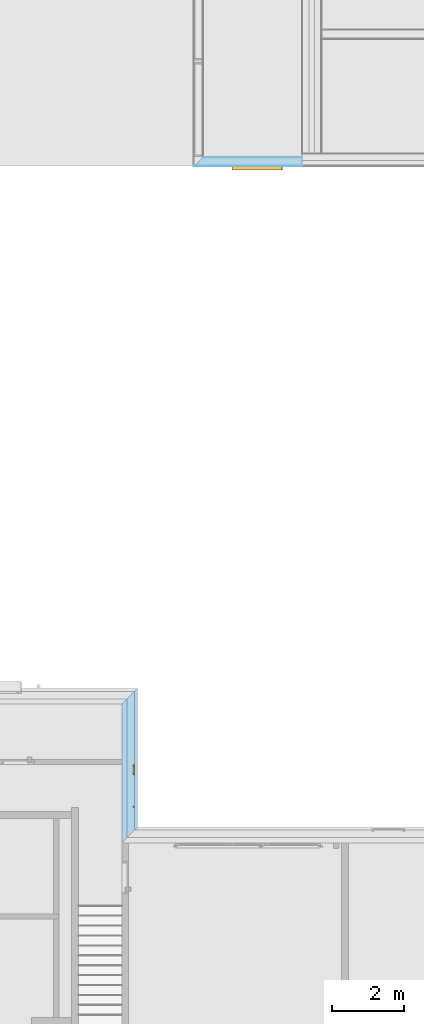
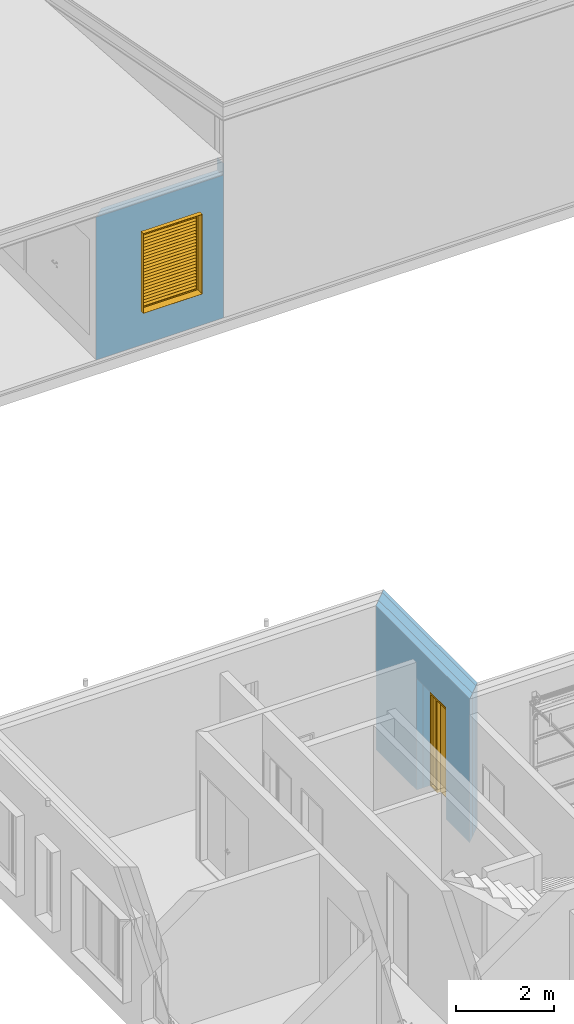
# One storey, part 35 of 62: 1 door, 1 window, 2 openings, 2 elements without a shape of their own, plus 6 elements that do not belong to this part.
"""IFC2X3 building model written with IfcOpenShell, lengths in millimetres."""

from ifc_helpers import new_model, entity, si_unit, converted_unit, derived_unit, money_unit, direction, frame, origin_with_axes, origin_2d_with_axis, place, context, subcontext, project, spatial, polyline, rectangle, outline, extrude, clip, bounded_halfspace, open_shell, faceted_brep, surface_model, material, type_object, element, fill, aggregate, save


model = new_model("IFC2X3")

# Units and contexts
model_context = context("Model", 3, precision=0.01, world=origin_with_axes(), true_north=direction((0.0, 1.0)))
body_context = subcontext(model_context, "Body", "Model", "MODEL_VIEW")
ifc_project = project(units=[si_unit("LENGTHUNIT", "METRE", prefix="MILLI"), si_unit("AREAUNIT", "SQUARE_METRE"), si_unit("VOLUMEUNIT", "CUBIC_METRE"), converted_unit("PLANEANGLEUNIT", "DEGREE", entity("IfcPlaneAngleMeasure", 0.0174532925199), si_unit("PLANEANGLEUNIT", "RADIAN"), dimensions=[0, 0, 0, 0, 0, 0, 0]), si_unit("SOLIDANGLEUNIT", "STERADIAN"), money_unit("EUR"), converted_unit("TIMEUNIT", "Year", entity("IfcTimeMeasure", 31556926.0), si_unit("TIMEUNIT", "SECOND"), dimensions=[0, 0, 1, 0, 0, 0, 0]), si_unit("MASSUNIT", "GRAM", prefix="KILO"), si_unit("THERMODYNAMICTEMPERATUREUNIT", "DEGREE_CELSIUS"), si_unit("LUMINOUSINTENSITYUNIT", "LUMEN"), si_unit("ENERGYUNIT", "JOULE", prefix="MEGA"), derived_unit("THERMALCONDUCTANCEUNIT", [(si_unit("POWERUNIT", "WATT"), 1), (si_unit("LENGTHUNIT", "METRE"), -1), (si_unit("THERMODYNAMICTEMPERATUREUNIT", "KELVIN"), -1)]), derived_unit("SPECIFICHEATCAPACITYUNIT", [(si_unit("ENERGYUNIT", "JOULE"), 1), (si_unit("MASSUNIT", "GRAM", prefix="KILO"), -1), (si_unit("THERMODYNAMICTEMPERATUREUNIT", "KELVIN"), -1)]), derived_unit("MASSDENSITYUNIT", [(si_unit("MASSUNIT", "GRAM", prefix="KILO"), 1), (si_unit("VOLUMEUNIT", "CUBIC_METRE"), -1)])], contexts=[model_context])

# Site, building, storey
site_placement = place(None, origin_with_axes())
site = spatial("IfcSite", under=ifc_project, at=site_placement, Name="KIRDE 14, ELVA", CompositionType="ELEMENT")
building_placement = place(site_placement, origin_with_axes())
building = spatial("IfcBuilding", under=site, at=building_placement, Name="PPA ja Päästeameti ühishoone", CompositionType="ELEMENT")
storey_placement = place(building_placement, origin_with_axes())
storey = spatial("IfcBuildingStorey", under=building, at=storey_placement, Name="Esimene korrus", CompositionType="ELEMENT", Elevation=0.0)

# Door
door_style = type_object("IfcDoorStyle", Name="Door with Sidelight on Side 2 and Transom 24", ConstructionType="NOTDEFINED", OperationType="SINGLE_SWING_RIGHT", ParameterTakesPrecedence=False, Sizeable=False)
wall_1_placement = place(storey_placement, frame((8900.00012238, 24599.816736, 0.0), z_axis=(0.0, 0.0, 1.0), x_axis=(2.4188782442e-10, -1.0, 0.0)))
opening_1_placement = place(wall_1_placement, frame((2271.02281914, 0.0, 0.0), z_axis=(0.0, 0.0, 1.0), x_axis=(1.0, 0.0, 0.0)))
door_placement = place(opening_1_placement, frame((-600.0, 0.0, 0.0), z_axis=(0.0, 0.0, 1.0), x_axis=(1.0, 0.0, 0.0)))
door = element("IfcDoor", 1, at=door_placement, inside=storey, type_object=door_style, Name="VU-02", ObjectType="DOOR", OverallHeight=2800.0, OverallWidth=1200.0, context=body_context, shape_type="SurfaceModel", body=[
    faceted_brep([(1.04012798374e-07, 429.999999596, 0.0), (40.000000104, 429.999999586, 0.0), (40.0000000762, 314.999999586, 0.0), (7.61950502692e-08, 314.999999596, 0.0), (1.04012798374e-07, 429.999999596, 2760.0), (40.000000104, 429.999999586, 2760.0), (40.000000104, 429.999999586, 2340.0), (40.000000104, 429.999999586, 2300.0), (40.000000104, 429.999999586, 40.0), (40.0000000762, 314.999999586, 40.0), (40.0000000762, 314.999999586, 2300.0), (40.0000000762, 314.999999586, 2340.0), (40.0000000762, 314.999999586, 2760.0), (7.61950502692e-08, 314.999999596, 2760.0)], [[[0, 1, 2, 3]], [[0, 4, 5, 6, 7, 8, 1]], [[1, 8, 9, 2]], [[3, 2, 9, 10, 11, 12, 13]], [[4, 0, 3, 13]], [[5, 4, 13, 12]], [[6, 5, 12, 11]], [[7, 6, 11, 10]], [[8, 7, 10, 9]]]),
    faceted_brep([(300.000000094, 389.999999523, 0.0), (300.000000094, 389.999999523, 2300.0), (300.000000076, 314.999999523, 2300.0), (300.000000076, 314.999999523, 0.0), (288.000000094, 389.999999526, 2300.0), (288.000000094, 389.999999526, 0.0), (288.000000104, 429.999999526, 2300.0), (260.000000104, 429.999999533, 2300.0), (260.000000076, 314.999999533, 2300.0), (260.000000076, 314.999999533, 0.0), (260.000000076, 314.999999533, 40.0), (260.000000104, 429.999999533, 0.0), (288.000000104, 429.999999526, 0.0), (260.000000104, 429.999999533, 40.0)], [[[0, 1, 2, 3]], [[4, 1, 0, 5]], [[4, 6, 7, 8, 2, 1]], [[9, 3, 2, 8, 10]], [[5, 0, 3, 9, 11, 12]], [[6, 4, 5, 12]], [[6, 12, 11, 13, 7]], [[13, 10, 8, 7]], [[11, 9, 10, 13]]]),
    faceted_brep([(40.000000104, 429.999999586, 40.0), (40.000000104, 429.999999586, 0.0), (40.0000000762, 314.999999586, 0.0), (40.0000000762, 314.999999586, 40.0), (260.000000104, 429.999999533, 40.0), (260.000000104, 429.999999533, 0.0), (260.000000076, 314.999999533, 0.0), (260.000000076, 314.999999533, 40.0)], [[[0, 1, 2, 3]], [[0, 4, 5, 1]], [[1, 5, 6, 2]], [[3, 2, 6, 7]], [[4, 0, 3, 7]], [[5, 4, 7, 6]]]),
    faceted_brep([(1172.0000001, 429.999999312, 2312.0), (1160.0000001, 429.999999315, 2312.0), (1160.0000001, 429.999999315, 2340.0), (1160.0000001, 429.999999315, 2760.0), (1200.0000001, 429.999999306, 2760.0), (1200.0000001, 429.999999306, 0.0), (1172.0000001, 429.999999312, 0.0), (1172.00000009, 389.999999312, 2312.0), (1160.00000009, 389.999999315, 2312.0), (1160.00000009, 389.999999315, 0.0), (1160.00000008, 314.999999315, 0.0), (1160.00000008, 314.999999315, 2300.0), (1160.00000008, 314.999999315, 2340.0), (1160.00000008, 314.999999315, 2760.0), (1200.00000008, 314.999999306, 2760.0), (1200.00000008, 314.999999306, 0.0), (1172.00000009, 389.999999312, 0.0)], [[[0, 1, 2, 3, 4, 5, 6]], [[1, 0, 7, 8]], [[8, 9, 10, 11, 12, 2, 1]], [[2, 12, 13, 3]], [[3, 13, 14, 4]], [[4, 14, 15, 5]], [[16, 6, 5, 15, 10, 9]], [[0, 6, 16, 7]], [[16, 9, 8, 7]], [[12, 11, 10, 15, 14, 13]]]),
    faceted_brep([(1.04012798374e-07, 429.999999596, 2800.0), (1.04012798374e-07, 429.999999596, 2760.0), (7.61950502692e-08, 314.999999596, 2760.0), (7.61950502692e-08, 314.999999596, 2800.0), (1200.0000001, 429.999999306, 2800.0), (1200.0000001, 429.999999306, 2760.0), (1160.0000001, 429.999999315, 2760.0), (40.000000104, 429.999999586, 2760.0), (40.0000000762, 314.999999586, 2760.0), (1160.00000008, 314.999999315, 2760.0), (1200.00000008, 314.999999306, 2760.0), (1200.00000008, 314.999999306, 2800.0)], [[[0, 1, 2, 3]], [[0, 4, 5, 6, 7, 1]], [[1, 7, 8, 2]], [[3, 2, 8, 9, 10, 11]], [[4, 0, 3, 11]], [[5, 4, 11, 10]], [[6, 5, 10, 9]], [[7, 6, 9, 8]]]),
    faceted_brep([(1160.00000009, 389.999999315, 2312.0), (1160.0000001, 429.999999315, 2312.0), (1160.0000001, 429.999999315, 2340.0), (1160.00000008, 314.999999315, 2340.0), (1160.00000008, 314.999999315, 2300.0), (1160.00000009, 389.999999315, 2300.0), (288.000000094, 389.999999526, 2312.0), (288.000000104, 429.999999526, 2312.0), (288.000000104, 429.999999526, 2300.0), (260.000000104, 429.999999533, 2300.0), (40.000000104, 429.999999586, 2300.0), (40.000000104, 429.999999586, 2340.0), (40.0000000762, 314.999999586, 2340.0), (300.000000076, 314.999999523, 2300.0), (40.0000000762, 314.999999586, 2300.0), (260.000000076, 314.999999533, 2300.0), (300.000000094, 389.999999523, 2300.0), (288.000000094, 389.999999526, 2300.0)], [[[0, 1, 2, 3, 4, 5]], [[1, 0, 6, 7]], [[7, 8, 9, 10, 11, 2, 1]], [[11, 12, 3, 2]], [[13, 4, 3, 12, 14, 15]], [[16, 5, 4, 13]], [[0, 5, 16, 17, 6]], [[8, 7, 6, 17]], [[17, 16, 13, 15, 9, 8]], [[9, 15, 14, 10]], [[10, 14, 12, 11]]]),
    faceted_brep([(1172.0000001, 429.999999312, 0.0), (1172.00000009, 389.999999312, 0.0), (288.000000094, 389.999999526, 0.0), (288.000000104, 429.999999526, 0.0), (1172.0000001, 429.999999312, 2312.0), (1172.00000009, 389.999999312, 2312.0), (288.000000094, 389.999999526, 2312.0), (288.000000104, 429.999999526, 2312.0)], [[[0, 1, 2, 3]], [[4, 5, 1, 0]], [[1, 5, 6, 2]], [[3, 2, 6, 7]], [[0, 3, 7, 4]], [[7, 6, 5, 4]]]),
    surface_model("IfcShellBasedSurfaceModel", [(40.0000000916, 378.499999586, 2340.0), (40.0000000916, 378.499999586, 2760.0), (1160.00000009, 378.499999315, 2760.0), (1160.00000009, 378.499999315, 2340.0)], [open_shell([[[0, 1, 2, 3]]])]),
    surface_model("IfcShellBasedSurfaceModel", [(40.0000000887, 366.499999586, 2340.0), (1160.00000009, 366.499999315, 2340.0), (1160.00000009, 366.499999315, 2760.0), (40.0000000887, 366.499999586, 2760.0)], [open_shell([[[0, 1, 2, 3]]])]),
    surface_model("IfcShellBasedSurfaceModel", [(40.0000000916, 378.499999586, 40.0), (40.0000000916, 378.499999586, 2300.0), (260.000000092, 378.499999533, 2300.0), (260.000000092, 378.499999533, 40.0)], [open_shell([[[0, 1, 2, 3]]])]),
    surface_model("IfcShellBasedSurfaceModel", [(40.0000000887, 366.499999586, 40.0), (260.000000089, 366.499999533, 40.0), (260.000000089, 366.499999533, 2300.0), (40.0000000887, 366.499999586, 2300.0)], [open_shell([[[0, 1, 2, 3]]])]),
])

# Window
window_style = type_object("IfcWindowStyle", Name="Window 24", ConstructionType="NOTDEFINED", OperationType="SINGLE_PANEL", ParameterTakesPrecedence=False, Sizeable=False)
wall_2_placement = place(storey_placement, frame((11159.4856153, 39784.5478473, 0.0), z_axis=(0.0, 0.0, 1.0), x_axis=(1.0, 0.0, 0.0)))
opening_2_placement = place(wall_2_placement, frame((1497.8524724, 0.0, 850.0), z_axis=(0.0, 0.0, 1.0), x_axis=(1.0, 0.0, 0.0)))
window_placement = place(opening_2_placement, frame((700.0, 0.0, 0.0), z_axis=(0.0, 0.0, 1.0), x_axis=(-1.0, 0.0, 0.0)))
window = element("IfcWindow", 2, at=window_placement, inside=storey, type_object=window_style, Name="VR-01", ObjectType="WINDOW", OverallHeight=2000.0, OverallWidth=1400.0, context=body_context, shape_type="Brep", body=[
    faceted_brep([(0.0, 170.0, 0.0), (0.0, 250.0, 0.0), (1400.0, 250.0, 0.0), (1400.0, 170.0, 0.0), (0.0, 170.0, 2000.0), (0.0, 250.0, 2000.0), (1400.0, 250.0, 2000.0), (5.0, 250.0, 5.0), (1395.0, 250.0, 5.0), (1395.0, 250.0, 1995.0), (5.0, 250.0, 1995.0), (1400.0, 170.0, 2000.0), (5.0, 170.0, 5.0), (5.0, 170.0, 1995.0), (1395.0, 170.0, 1995.0), (1395.0, 170.0, 5.0)], [[[0, 1, 2, 3]], [[4, 5, 1, 0]], [[1, 5, 6, 2], [7, 8, 9, 10]], [[3, 2, 6, 11]], [[0, 3, 11, 4], [12, 13, 14, 15]], [[11, 6, 5, 4]], [[15, 8, 7, 12]], [[14, 9, 8, 15]], [[13, 10, 9, 14]], [[12, 7, 10, 13]]]),
    faceted_brep([(0.0, 350.0, 0.0), (5.0, 350.0, 5.0), (5.0, 250.0, 5.0), (0.0, 250.0, 0.0), (0.0, 350.0, 2000.0), (5.0, 350.0, 1995.0), (5.0, 250.0, 1995.0), (0.0, 250.0, 2000.0)], [[[0, 1, 2, 3]], [[0, 4, 5, 1]], [[1, 5, 6, 2]], [[3, 2, 6, 7]], [[4, 0, 3, 7]], [[5, 4, 7, 6]]]),
    faceted_brep([(1400.0, 350.0, 2000.0), (1395.0, 350.0, 1995.0), (1395.0, 250.0, 1995.0), (1400.0, 250.0, 2000.0), (1400.0, 350.0, 0.0), (1395.0, 350.0, 5.0), (1395.0, 250.0, 5.0), (1400.0, 250.0, 0.0)], [[[0, 1, 2, 3]], [[0, 4, 5, 1]], [[1, 5, 6, 2]], [[3, 2, 6, 7]], [[4, 0, 3, 7]], [[5, 4, 7, 6]]]),
    faceted_brep([(1400.0, 350.0, 0.0), (1395.0, 350.0, 5.0), (1395.0, 250.0, 5.0), (1400.0, 250.0, 0.0), (0.0, 350.0, 0.0), (5.0, 350.0, 5.0), (5.0, 250.0, 5.0), (0.0, 250.0, 0.0)], [[[0, 1, 2, 3]], [[0, 4, 5, 1]], [[1, 5, 6, 2]], [[3, 2, 6, 7]], [[4, 0, 3, 7]], [[5, 4, 7, 6]]]),
    faceted_brep([(0.0, 350.0, 2000.0), (5.0, 350.0, 1995.0), (5.0, 250.0, 1995.0), (0.0, 250.0, 2000.0), (1400.0, 350.0, 2000.0), (1395.0, 350.0, 1995.0), (1395.0, 250.0, 1995.0), (1400.0, 250.0, 2000.0)], [[[0, 1, 2, 3]], [[0, 4, 5, 1]], [[1, 5, 6, 2]], [[3, 2, 6, 7]], [[4, 0, 3, 7]], [[5, 4, 7, 6]]]),
    faceted_brep([(35.0, 120.0, 1965.0), (35.0, 170.0, 1965.0), (0.0, 170.0, 2000.0), (0.0, 120.0, 2000.0), (35.0, 120.0, 35.0), (35.0, 170.0, 35.0), (0.0, 170.0, 0.0), (0.0, 120.0, 0.0)], [[[0, 1, 2, 3]], [[4, 5, 1, 0]], [[1, 5, 6, 2]], [[3, 2, 6, 7]], [[0, 3, 7, 4]], [[7, 6, 5, 4]]]),
    faceted_brep([(1365.0, 120.0, 35.0), (1365.0, 170.0, 35.0), (1400.0, 170.0, 0.0), (1400.0, 120.0, 0.0), (1365.0, 120.0, 1965.0), (1365.0, 170.0, 1965.0), (1400.0, 170.0, 2000.0), (1400.0, 120.0, 2000.0)], [[[0, 1, 2, 3]], [[4, 5, 1, 0]], [[1, 5, 6, 2]], [[3, 2, 6, 7]], [[0, 3, 7, 4]], [[7, 6, 5, 4]]]),
    faceted_brep([(35.0, 120.0, 35.0), (35.0, 170.0, 35.0), (0.0, 170.0, 0.0), (0.0, 120.0, 0.0), (1365.0, 120.0, 35.0), (1365.0, 170.0, 35.0), (1400.0, 170.0, 0.0), (1400.0, 120.0, 0.0)], [[[0, 1, 2, 3]], [[4, 5, 1, 0]], [[1, 5, 6, 2]], [[3, 2, 6, 7]], [[0, 3, 7, 4]], [[7, 6, 5, 4]]]),
    faceted_brep([(1365.0, 120.0, 1965.0), (1365.0, 170.0, 1965.0), (1400.0, 170.0, 2000.0), (1400.0, 120.0, 2000.0), (35.0, 120.0, 1965.0), (35.0, 170.0, 1965.0), (0.0, 170.0, 2000.0), (0.0, 120.0, 2000.0)], [[[0, 1, 2, 3]], [[4, 5, 1, 0]], [[1, 5, 6, 2]], [[3, 2, 6, 7]], [[0, 3, 7, 4]], [[7, 6, 5, 4]]]),
    faceted_brep([(35.0, 170.526554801, 44.5379112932), (1365.0, 170.526554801, 44.5379112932), (1365.0, 115.937911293, 99.1265548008), (35.0, 115.937911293, 99.1265548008), (35.0, 174.062088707, 48.0734451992), (1365.0, 174.062088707, 48.0734451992), (1365.0, 119.473445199, 102.662088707), (35.0, 119.473445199, 102.662088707)], [[[0, 1, 2, 3]], [[4, 5, 1, 0]], [[1, 5, 6, 2]], [[3, 2, 6, 7]], [[0, 3, 7, 4]], [[7, 6, 5, 4]]]),
    faceted_brep([(35.0, 170.526554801, 121.737911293), (1365.0, 170.526554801, 121.737911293), (1365.0, 115.937911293, 176.326554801), (35.0, 115.937911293, 176.326554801), (35.0, 174.062088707, 125.273445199), (1365.0, 174.062088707, 125.273445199), (1365.0, 119.473445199, 179.862088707), (35.0, 119.473445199, 179.862088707)], [[[0, 1, 2, 3]], [[4, 5, 1, 0]], [[1, 5, 6, 2]], [[3, 2, 6, 7]], [[0, 3, 7, 4]], [[7, 6, 5, 4]]]),
    faceted_brep([(35.0, 170.526554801, 198.937911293), (1365.0, 170.526554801, 198.937911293), (1365.0, 115.937911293, 253.526554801), (35.0, 115.937911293, 253.526554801), (35.0, 174.062088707, 202.473445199), (1365.0, 174.062088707, 202.473445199), (1365.0, 119.473445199, 257.062088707), (35.0, 119.473445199, 257.062088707)], [[[0, 1, 2, 3]], [[4, 5, 1, 0]], [[1, 5, 6, 2]], [[3, 2, 6, 7]], [[0, 3, 7, 4]], [[7, 6, 5, 4]]]),
    faceted_brep([(35.0, 170.526554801, 276.137911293), (1365.0, 170.526554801, 276.137911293), (1365.0, 115.937911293, 330.726554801), (35.0, 115.937911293, 330.726554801), (35.0, 174.062088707, 279.673445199), (1365.0, 174.062088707, 279.673445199), (1365.0, 119.473445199, 334.262088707), (35.0, 119.473445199, 334.262088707)], [[[0, 1, 2, 3]], [[4, 5, 1, 0]], [[1, 5, 6, 2]], [[3, 2, 6, 7]], [[0, 3, 7, 4]], [[7, 6, 5, 4]]]),
    faceted_brep([(35.0, 170.526554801, 353.337911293), (1365.0, 170.526554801, 353.337911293), (1365.0, 115.937911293, 407.926554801), (35.0, 115.937911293, 407.926554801), (35.0, 174.062088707, 356.873445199), (1365.0, 174.062088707, 356.873445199), (1365.0, 119.473445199, 411.462088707), (35.0, 119.473445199, 411.462088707)], [[[0, 1, 2, 3]], [[4, 5, 1, 0]], [[1, 5, 6, 2]], [[3, 2, 6, 7]], [[0, 3, 7, 4]], [[7, 6, 5, 4]]]),
    faceted_brep([(35.0, 170.526554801, 430.537911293), (1365.0, 170.526554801, 430.537911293), (1365.0, 115.937911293, 485.126554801), (35.0, 115.937911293, 485.126554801), (35.0, 174.062088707, 434.073445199), (1365.0, 174.062088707, 434.073445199), (1365.0, 119.473445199, 488.662088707), (35.0, 119.473445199, 488.662088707)], [[[0, 1, 2, 3]], [[4, 5, 1, 0]], [[1, 5, 6, 2]], [[3, 2, 6, 7]], [[0, 3, 7, 4]], [[7, 6, 5, 4]]]),
    faceted_brep([(35.0, 170.526554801, 507.737911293), (1365.0, 170.526554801, 507.737911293), (1365.0, 115.937911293, 562.326554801), (35.0, 115.937911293, 562.326554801), (35.0, 174.062088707, 511.273445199), (1365.0, 174.062088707, 511.273445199), (1365.0, 119.473445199, 565.862088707), (35.0, 119.473445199, 565.862088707)], [[[0, 1, 2, 3]], [[4, 5, 1, 0]], [[1, 5, 6, 2]], [[3, 2, 6, 7]], [[0, 3, 7, 4]], [[7, 6, 5, 4]]]),
    faceted_brep([(35.0, 170.526554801, 584.937911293), (1365.0, 170.526554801, 584.937911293), (1365.0, 115.937911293, 639.526554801), (35.0, 115.937911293, 639.526554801), (35.0, 174.062088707, 588.473445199), (1365.0, 174.062088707, 588.473445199), (1365.0, 119.473445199, 643.062088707), (35.0, 119.473445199, 643.062088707)], [[[0, 1, 2, 3]], [[4, 5, 1, 0]], [[1, 5, 6, 2]], [[3, 2, 6, 7]], [[0, 3, 7, 4]], [[7, 6, 5, 4]]]),
    faceted_brep([(35.0, 170.526554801, 662.137911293), (1365.0, 170.526554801, 662.137911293), (1365.0, 115.937911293, 716.726554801), (35.0, 115.937911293, 716.726554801), (35.0, 174.062088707, 665.673445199), (1365.0, 174.062088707, 665.673445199), (1365.0, 119.473445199, 720.262088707), (35.0, 119.473445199, 720.262088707)], [[[0, 1, 2, 3]], [[4, 5, 1, 0]], [[1, 5, 6, 2]], [[3, 2, 6, 7]], [[0, 3, 7, 4]], [[7, 6, 5, 4]]]),
    faceted_brep([(35.0, 170.526554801, 739.337911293), (1365.0, 170.526554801, 739.337911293), (1365.0, 115.937911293, 793.926554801), (35.0, 115.937911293, 793.926554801), (35.0, 174.062088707, 742.873445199), (1365.0, 174.062088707, 742.873445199), (1365.0, 119.473445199, 797.462088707), (35.0, 119.473445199, 797.462088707)], [[[0, 1, 2, 3]], [[4, 5, 1, 0]], [[1, 5, 6, 2]], [[3, 2, 6, 7]], [[0, 3, 7, 4]], [[7, 6, 5, 4]]]),
    faceted_brep([(35.0, 170.526554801, 816.537911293), (1365.0, 170.526554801, 816.537911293), (1365.0, 115.937911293, 871.126554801), (35.0, 115.937911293, 871.126554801), (35.0, 174.062088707, 820.073445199), (1365.0, 174.062088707, 820.073445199), (1365.0, 119.473445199, 874.662088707), (35.0, 119.473445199, 874.662088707)], [[[0, 1, 2, 3]], [[4, 5, 1, 0]], [[1, 5, 6, 2]], [[3, 2, 6, 7]], [[0, 3, 7, 4]], [[7, 6, 5, 4]]]),
    faceted_brep([(35.0, 170.526554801, 893.737911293), (1365.0, 170.526554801, 893.737911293), (1365.0, 115.937911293, 948.326554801), (35.0, 115.937911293, 948.326554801), (35.0, 174.062088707, 897.273445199), (1365.0, 174.062088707, 897.273445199), (1365.0, 119.473445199, 951.862088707), (35.0, 119.473445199, 951.862088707)], [[[0, 1, 2, 3]], [[4, 5, 1, 0]], [[1, 5, 6, 2]], [[3, 2, 6, 7]], [[0, 3, 7, 4]], [[7, 6, 5, 4]]]),
    faceted_brep([(35.0, 170.526554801, 970.937911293), (1365.0, 170.526554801, 970.937911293), (1365.0, 115.937911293, 1025.5265548), (35.0, 115.937911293, 1025.5265548), (35.0, 174.062088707, 974.473445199), (1365.0, 174.062088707, 974.473445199), (1365.0, 119.473445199, 1029.06208871), (35.0, 119.473445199, 1029.06208871)], [[[0, 1, 2, 3]], [[4, 5, 1, 0]], [[1, 5, 6, 2]], [[3, 2, 6, 7]], [[0, 3, 7, 4]], [[7, 6, 5, 4]]]),
    faceted_brep([(35.0, 170.526554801, 1048.13791129), (1365.0, 170.526554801, 1048.13791129), (1365.0, 115.937911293, 1102.7265548), (35.0, 115.937911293, 1102.7265548), (35.0, 174.062088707, 1051.6734452), (1365.0, 174.062088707, 1051.6734452), (1365.0, 119.473445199, 1106.26208871), (35.0, 119.473445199, 1106.26208871)], [[[0, 1, 2, 3]], [[4, 5, 1, 0]], [[1, 5, 6, 2]], [[3, 2, 6, 7]], [[0, 3, 7, 4]], [[7, 6, 5, 4]]]),
    faceted_brep([(35.0, 170.526554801, 1125.33791129), (1365.0, 170.526554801, 1125.33791129), (1365.0, 115.937911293, 1179.9265548), (35.0, 115.937911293, 1179.9265548), (35.0, 174.062088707, 1128.8734452), (1365.0, 174.062088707, 1128.8734452), (1365.0, 119.473445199, 1183.46208871), (35.0, 119.473445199, 1183.46208871)], [[[0, 1, 2, 3]], [[4, 5, 1, 0]], [[1, 5, 6, 2]], [[3, 2, 6, 7]], [[0, 3, 7, 4]], [[7, 6, 5, 4]]]),
    faceted_brep([(35.0, 170.526554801, 1202.53791129), (1365.0, 170.526554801, 1202.53791129), (1365.0, 115.937911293, 1257.1265548), (35.0, 115.937911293, 1257.1265548), (35.0, 174.062088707, 1206.0734452), (1365.0, 174.062088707, 1206.0734452), (1365.0, 119.473445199, 1260.66208871), (35.0, 119.473445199, 1260.66208871)], [[[0, 1, 2, 3]], [[4, 5, 1, 0]], [[1, 5, 6, 2]], [[3, 2, 6, 7]], [[0, 3, 7, 4]], [[7, 6, 5, 4]]]),
    faceted_brep([(35.0, 170.526554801, 1279.73791129), (1365.0, 170.526554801, 1279.73791129), (1365.0, 115.937911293, 1334.3265548), (35.0, 115.937911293, 1334.3265548), (35.0, 174.062088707, 1283.2734452), (1365.0, 174.062088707, 1283.2734452), (1365.0, 119.473445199, 1337.86208871), (35.0, 119.473445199, 1337.86208871)], [[[0, 1, 2, 3]], [[4, 5, 1, 0]], [[1, 5, 6, 2]], [[3, 2, 6, 7]], [[0, 3, 7, 4]], [[7, 6, 5, 4]]]),
    faceted_brep([(35.0, 170.526554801, 1356.93791129), (1365.0, 170.526554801, 1356.93791129), (1365.0, 115.937911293, 1411.5265548), (35.0, 115.937911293, 1411.5265548), (35.0, 174.062088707, 1360.4734452), (1365.0, 174.062088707, 1360.4734452), (1365.0, 119.473445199, 1415.06208871), (35.0, 119.473445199, 1415.06208871)], [[[0, 1, 2, 3]], [[4, 5, 1, 0]], [[1, 5, 6, 2]], [[3, 2, 6, 7]], [[0, 3, 7, 4]], [[7, 6, 5, 4]]]),
    faceted_brep([(35.0, 170.526554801, 1434.13791129), (1365.0, 170.526554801, 1434.13791129), (1365.0, 115.937911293, 1488.7265548), (35.0, 115.937911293, 1488.7265548), (35.0, 174.062088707, 1437.6734452), (1365.0, 174.062088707, 1437.6734452), (1365.0, 119.473445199, 1492.26208871), (35.0, 119.473445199, 1492.26208871)], [[[0, 1, 2, 3]], [[4, 5, 1, 0]], [[1, 5, 6, 2]], [[3, 2, 6, 7]], [[0, 3, 7, 4]], [[7, 6, 5, 4]]]),
    faceted_brep([(35.0, 170.526554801, 1511.33791129), (1365.0, 170.526554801, 1511.33791129), (1365.0, 115.937911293, 1565.9265548), (35.0, 115.937911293, 1565.9265548), (35.0, 174.062088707, 1514.8734452), (1365.0, 174.062088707, 1514.8734452), (1365.0, 119.473445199, 1569.46208871), (35.0, 119.473445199, 1569.46208871)], [[[0, 1, 2, 3]], [[4, 5, 1, 0]], [[1, 5, 6, 2]], [[3, 2, 6, 7]], [[0, 3, 7, 4]], [[7, 6, 5, 4]]]),
    faceted_brep([(35.0, 170.526554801, 1588.53791129), (1365.0, 170.526554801, 1588.53791129), (1365.0, 115.937911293, 1643.1265548), (35.0, 115.937911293, 1643.1265548), (35.0, 174.062088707, 1592.0734452), (1365.0, 174.062088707, 1592.0734452), (1365.0, 119.473445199, 1646.66208871), (35.0, 119.473445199, 1646.66208871)], [[[0, 1, 2, 3]], [[4, 5, 1, 0]], [[1, 5, 6, 2]], [[3, 2, 6, 7]], [[0, 3, 7, 4]], [[7, 6, 5, 4]]]),
    faceted_brep([(35.0, 170.526554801, 1665.73791129), (1365.0, 170.526554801, 1665.73791129), (1365.0, 115.937911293, 1720.3265548), (35.0, 115.937911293, 1720.3265548), (35.0, 174.062088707, 1669.2734452), (1365.0, 174.062088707, 1669.2734452), (1365.0, 119.473445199, 1723.86208871), (35.0, 119.473445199, 1723.86208871)], [[[0, 1, 2, 3]], [[4, 5, 1, 0]], [[1, 5, 6, 2]], [[3, 2, 6, 7]], [[0, 3, 7, 4]], [[7, 6, 5, 4]]]),
    faceted_brep([(35.0, 170.526554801, 1742.93791129), (1365.0, 170.526554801, 1742.93791129), (1365.0, 115.937911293, 1797.5265548), (35.0, 115.937911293, 1797.5265548), (35.0, 174.062088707, 1746.4734452), (1365.0, 174.062088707, 1746.4734452), (1365.0, 119.473445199, 1801.06208871), (35.0, 119.473445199, 1801.06208871)], [[[0, 1, 2, 3]], [[4, 5, 1, 0]], [[1, 5, 6, 2]], [[3, 2, 6, 7]], [[0, 3, 7, 4]], [[7, 6, 5, 4]]]),
    faceted_brep([(35.0, 170.526554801, 1820.13791129), (1365.0, 170.526554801, 1820.13791129), (1365.0, 115.937911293, 1874.7265548), (35.0, 115.937911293, 1874.7265548), (35.0, 174.062088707, 1823.6734452), (1365.0, 174.062088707, 1823.6734452), (1365.0, 119.473445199, 1878.26208871), (35.0, 119.473445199, 1878.26208871)], [[[0, 1, 2, 3]], [[4, 5, 1, 0]], [[1, 5, 6, 2]], [[3, 2, 6, 7]], [[0, 3, 7, 4]], [[7, 6, 5, 4]]]),
    faceted_brep([(35.0, 170.526554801, 1897.33791129), (1365.0, 170.526554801, 1897.33791129), (1365.0, 115.937911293, 1951.9265548), (35.0, 115.937911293, 1951.9265548), (35.0, 174.062088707, 1900.8734452), (1365.0, 174.062088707, 1900.8734452), (1365.0, 119.473445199, 1955.46208871), (35.0, 119.473445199, 1955.46208871)], [[[0, 1, 2, 3]], [[4, 5, 1, 0]], [[1, 5, 6, 2]], [[3, 2, 6, 7]], [[0, 3, 7, 4]], [[7, 6, 5, 4]]]),
])

# Wall, opening
wall_type_1 = type_object("IfcWallType", Name="VS-01 430", PredefinedType="NOTDEFINED")
wall_1 = element("IfcWall", 3, at=wall_1_placement, inside=storey, type_object=wall_type_1, Name="VS-01")
opening_1 = element("IfcOpeningElement", 4, at=opening_1_placement, cuts=wall_1, Name="VU-02", context=body_context, shape_type="SweptSolid", body=[
    extrude(rectangle(XDim=1200.0, YDim=2800.0, at=origin_2d_with_axis()), frame((-1.04012798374e-07, -430.0, 1400.0), z_axis=(2.4188782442e-10, 1.0, 0.0), x_axis=(1.0, -2.41888008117e-10, 0.0)), (0.0, 0.0, 1.0), 1290.0),
])

fill(opening_1, door)

# Building element part
ifc_material_1 = material(Name="Raudbetoon Paneelid (2)")
building_element_part_1_placement = place(wall_1_placement, origin_with_axes())
building_element_part_1 = element("IfcBuildingElementPart", 5, at=building_element_part_1_placement, material=ifc_material_1, Name="Raudbetoon Paneelid (2)", context=body_context, shape_type="SweptSolid", body=[
    extrude(outline(polyline([(0.0, 0.0), (3850.22510681, 0.0), (3700.22510679, 150.0), (-150.000000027, 150.0), (0.0, 0.0)])), origin_with_axes(), (0.0, 0.0, 1.0), 3600.0),
])

ifc_material_2 = material(Name="Vahtpolüstüreen (4)")
building_element_part_2_placement = place(wall_1_placement, origin_with_axes())
building_element_part_2 = element("IfcBuildingElementPart", 6, at=building_element_part_2_placement, material=ifc_material_2, Name="Vahtpolüstüreen (4)", context=body_context, shape_type="SweptSolid", body=[
    extrude(outline(polyline([(-150.000000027, 150.0), (3700.22510679, 150.0), (3500.22510676, 350.0), (-350.000000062, 350.0), (-150.000000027, 150.0)])), origin_with_axes(), (0.0, 0.0, 1.0), 3600.0),
])

building_element_part_3_placement = place(wall_1_placement, origin_with_axes())
building_element_part_3 = element("IfcBuildingElementPart", 7, at=building_element_part_3_placement, material=ifc_material_1, Name="Raudbetoon Paneelid (2)", context=body_context, shape_type="SweptSolid", body=[
    extrude(outline(polyline([(-350.000000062, 350.0), (3500.22510676, 350.0), (3420.22510675, 430.0), (-430.000000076, 430.0), (-350.000000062, 350.0)])), origin_with_axes(), (0.0, 0.0, 1.0), 3600.0),
])

aggregate(wall_1, [building_element_part_1, building_element_part_2, building_element_part_3])

# Wall, opening
wall_type_2 = type_object("IfcWallType", Name="A-VS02 250", PredefinedType="NOTDEFINED")
wall_2 = element("IfcWall", 8, at=wall_2_placement, inside=storey, type_object=wall_type_2, Name="VS-04")
opening_2 = element("IfcOpeningElement", 9, at=opening_2_placement, cuts=wall_2, Name="VR-01", context=body_context, shape_type="SweptSolid", body=[
    extrude(rectangle(XDim=1400.0, YDim=2000.0, at=origin_2d_with_axis()), frame((0.0, -170.0, 1000.0), z_axis=(0.0, -1.0, 0.0), x_axis=(-1.0, 0.0, 0.0)), (0.0, 0.0, -1.0), 420.0),
    extrude(rectangle(XDim=1400.0, YDim=2000.0, at=origin_2d_with_axis()), frame((0.0, -170.0, 1000.0), z_axis=(0.0, 1.0, 0.0), x_axis=(-1.0, 0.0, 0.0)), (0.0, 0.0, -1.0), 330.0),
    extrude(rectangle(XDim=1400.0, YDim=2000.0, at=origin_2d_with_axis()), frame((0.0, -250.0, 1000.0), z_axis=(0.0, 1.0, 0.0), x_axis=(-1.0, 0.0, 0.0)), (0.0, 0.0, -1.0), 330.0),
])

fill(opening_2, window)

# Building element part
ifc_material_3 = material(Name="Krohv")
building_element_part_4_placement = place(wall_2_placement, origin_with_axes())
building_element_part_4 = element("IfcBuildingElementPart", 10, at=building_element_part_4_placement, material=ifc_material_3, Name="Krohv", context=body_context, shape_type="Clipping", body=[
    clip(clip(extrude(outline(polyline([(-5.2, -5.0), (2749.48751689, -5.0), (2749.48751689, 0.0), (0.0, 0.0), (-5.2, -5.0)])), origin_with_axes(), (0.0, 0.0, 1.0), 3873.52702542), bounded_halfspace(frame((-1.02764208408e-07, 249.568832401, 3539.12728449), z_axis=(0.0, -0.0703423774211, -0.997522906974), x_axis=(0.0, 0.997522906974, -0.0703423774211)), True, origin_with_axes(), polyline([(-22101.8973628, -260.0), (2744.48751675, -260.0), (2744.48751663, 10.0), (-22101.8973628, 10.0), (-22101.8973628, -260.0)]))), bounded_halfspace(frame((-1.06809217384e-07, 259.392370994, 3678.43455747), z_axis=(0.0, -0.0703423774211, -0.997522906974), x_axis=(0.0, 0.997522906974, -0.0703423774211)), True, origin_with_axes(), polyline([(-22101.8973627, -260.0), (2744.48751686, -260.0), (2744.48751675, 10.0), (-22101.8973627, 10.0), (-22101.8973627, -260.0)]))),
])

ifc_material_4 = material(Name="COLUMBIA KIVI (BETONEERITUD)")
building_element_part_5_placement = place(wall_2_placement, origin_with_axes())
building_element_part_5 = element("IfcBuildingElementPart", 11, at=building_element_part_5_placement, material=ifc_material_4, Name="COLUMBIA KIVI (BETONEERITUD)", context=body_context, shape_type="Clipping", body=[
    clip(clip(extrude(outline(polyline([(-254.8, -245.0), (2749.48751689, -245.0), (2749.48751689, -5.0), (-5.2, -5.0), (-254.8, -245.0)])), origin_with_axes(), (0.0, 0.0, 1.0), 3873.52702542), bounded_halfspace(frame((-1.02764208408e-07, 249.568832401, 3539.12728449), z_axis=(0.0, -0.0703423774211, -0.997522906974), x_axis=(0.0, 0.997522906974, -0.0703423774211)), True, origin_with_axes(), polyline([(-22101.8973628, -260.0), (2744.48751675, -260.0), (2744.48751663, 10.0), (-22101.8973628, 10.0), (-22101.8973628, -260.0)]))), bounded_halfspace(frame((-1.06809217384e-07, 259.392370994, 3678.43455747), z_axis=(0.0, -0.0703423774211, -0.997522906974), x_axis=(0.0, 0.997522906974, -0.0703423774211)), True, origin_with_axes(), polyline([(-22101.8973627, -260.0), (2744.48751686, -260.0), (2744.48751675, 10.0), (-22101.8973627, 10.0), (-22101.8973627, -260.0)]))),
])

building_element_part_6_placement = place(wall_2_placement, origin_with_axes())
building_element_part_6 = element("IfcBuildingElementPart", 12, at=building_element_part_6_placement, material=ifc_material_3, Name="Krohv", context=body_context, shape_type="Clipping", body=[
    clip(clip(extrude(outline(polyline([(-260.0, -250.0), (2749.48751689, -250.0), (2749.48751689, -245.0), (-254.8, -245.0), (-260.0, -250.0)])), origin_with_axes(), (0.0, 0.0, 1.0), 3873.52702542), bounded_halfspace(frame((-1.02764208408e-07, 249.568832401, 3539.12728449), z_axis=(0.0, -0.0703423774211, -0.997522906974), x_axis=(0.0, 0.997522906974, -0.0703423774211)), True, origin_with_axes(), polyline([(-22101.8973628, -260.0), (2744.48751675, -260.0), (2744.48751663, 10.0), (-22101.8973628, 10.0), (-22101.8973628, -260.0)]))), bounded_halfspace(frame((-1.06809217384e-07, 259.392370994, 3678.43455747), z_axis=(0.0, -0.0703423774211, -0.997522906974), x_axis=(0.0, 0.997522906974, -0.0703423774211)), True, origin_with_axes(), polyline([(-22101.8973627, -260.0), (2744.48751686, -260.0), (2744.48751675, 10.0), (-22101.8973627, 10.0), (-22101.8973627, -260.0)]))),
])

aggregate(wall_2, [building_element_part_4, building_element_part_5, building_element_part_6])

save(model, "model.ifc")
